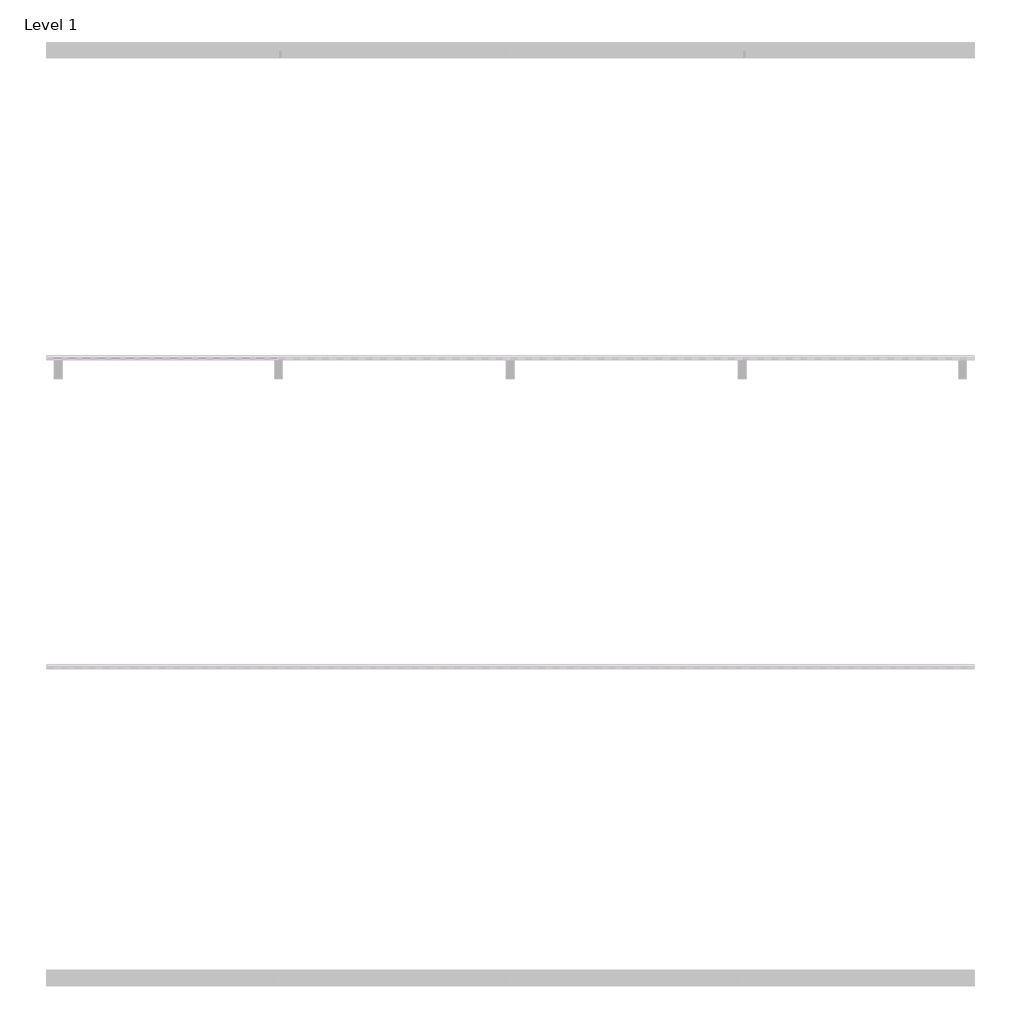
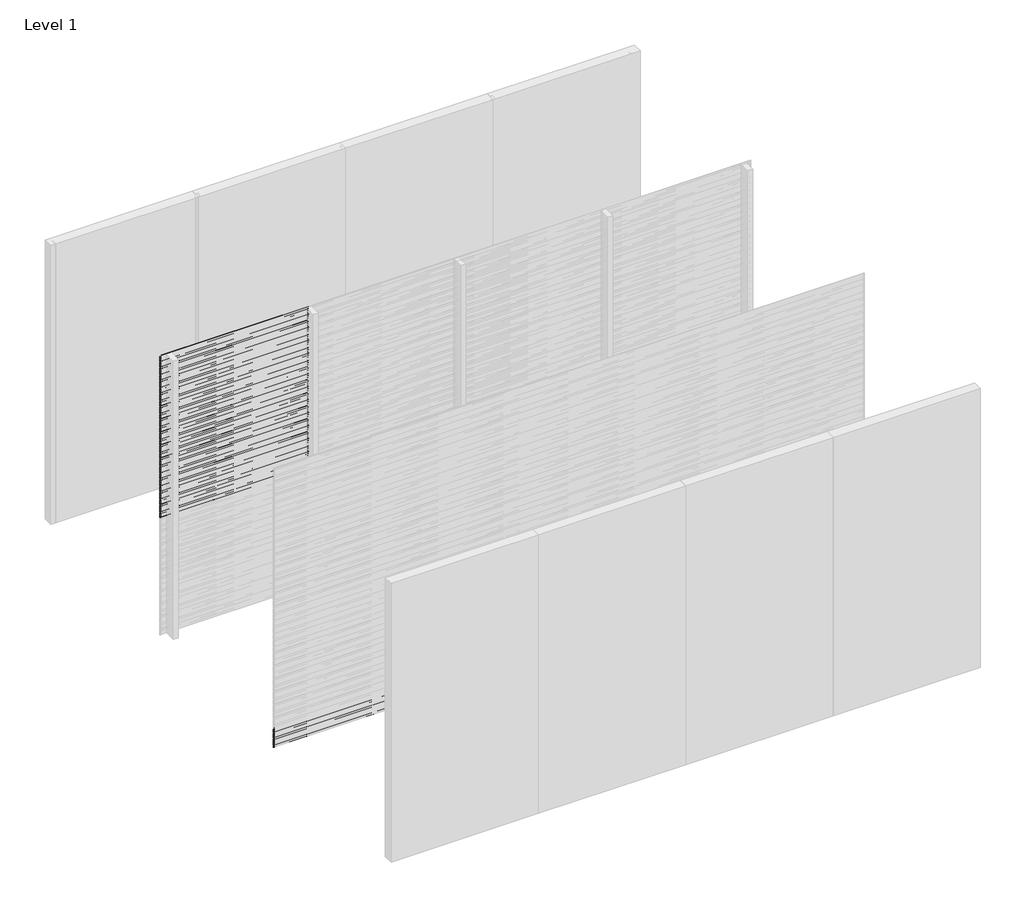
# One storey, part 3 of 31: 97 proxies.
"""IFC4 building model written with IfcOpenShell, lengths in millimetres."""

from ifc_helpers import new_model, si_unit, frame, origin, place, context, project, spatial, polyline, outline, extrude, element, save

model = new_model("IFC4")

# Units and contexts
model_context = context("Model", 3, world=origin())
ifc_project = project(units=[si_unit("LENGTHUNIT", "METRE", prefix="MILLI")], contexts=[model_context])

# Site, building, storey
site = spatial("IfcSite", under=ifc_project)
building = spatial("IfcBuilding", under=site)
storey = spatial("IfcBuildingStorey", under=building, Name="Level 1", Elevation=0.0)

# Proxies
placement = place(None, origin())
element("IfcBuildingElementProxy", 1, Name="Wall Sweeps", at=placement, inside=storey, context=model_context, shape_type="SweptSolid", body=[
    extrude(outline(polyline([(-17995.0, 3000.0), (-17995.0, 2988.942893), (-17976.0, 2973.0), (-17976.0, 2960.0), (-17997.0, 2977.6210923), (-17997.0, 3000.0), (-17995.0, 3000.0)])), frame((0.0, 0.0, 0.0), z_axis=(1.0, 0.0, 0.0), x_axis=(0.0, 1.0, 0.0)), (0.0, 0.0, 1.0), 1500.0000002),
])
element("IfcBuildingElementProxy", 2, Name="Wall Sweeps", at=placement, inside=storey, context=model_context, shape_type="SweptSolid", body=[
    extrude(outline(polyline([(-17995.0, 2980.0), (-17995.0, 2968.942893), (-17976.0, 2953.0), (-17976.0, 2940.0), (-17997.0, 2957.6210923), (-17997.0, 2980.0), (-17995.0, 2980.0)])), frame((0.0, 0.0, 0.0), z_axis=(1.0, 0.0, 0.0), x_axis=(0.0, 1.0, 0.0)), (0.0, 0.0, 1.0), 1500.0000002),
])
element("IfcBuildingElementProxy", 3, Name="Wall Sweeps", at=placement, inside=storey, context=model_context, shape_type="SweptSolid", body=[
    extrude(outline(polyline([(-17995.0, 2960.0), (-17995.0, 2948.942893), (-17976.0, 2933.0), (-17976.0, 2920.0), (-17997.0, 2937.6210923), (-17997.0, 2960.0), (-17995.0, 2960.0)])), frame((0.0, 0.0, 0.0), z_axis=(1.0, 0.0, 0.0), x_axis=(0.0, 1.0, 0.0)), (0.0, 0.0, 1.0), 1500.0000002),
])
element("IfcBuildingElementProxy", 4, Name="Wall Sweeps", at=placement, inside=storey, context=model_context, shape_type="SweptSolid", body=[
    extrude(outline(polyline([(-17995.0, 2940.0), (-17995.0, 2928.942893), (-17976.0, 2913.0), (-17976.0, 2900.0), (-17997.0, 2917.6210923), (-17997.0, 2940.0), (-17995.0, 2940.0)])), frame((0.0, 0.0, 0.0), z_axis=(1.0, 0.0, 0.0), x_axis=(0.0, 1.0, 0.0)), (0.0, 0.0, 1.0), 1500.0000002),
])
element("IfcBuildingElementProxy", 5, Name="Wall Sweeps", at=placement, inside=storey, context=model_context, shape_type="SweptSolid", body=[
    extrude(outline(polyline([(-17995.0, 2920.0), (-17995.0, 2908.942893), (-17976.0, 2893.0), (-17976.0, 2880.0), (-17997.0, 2897.6210923), (-17997.0, 2920.0), (-17995.0, 2920.0)])), frame((0.0, 0.0, 0.0), z_axis=(1.0, 0.0, 0.0), x_axis=(0.0, 1.0, 0.0)), (0.0, 0.0, 1.0), 1500.0000002),
])
element("IfcBuildingElementProxy", 6, Name="Wall Sweeps", at=placement, inside=storey, context=model_context, shape_type="SweptSolid", body=[
    extrude(outline(polyline([(-17995.0, 2900.0), (-17995.0, 2888.942893), (-17976.0, 2873.0), (-17976.0, 2860.0), (-17997.0, 2877.6210923), (-17997.0, 2900.0), (-17995.0, 2900.0)])), frame((0.0, 0.0, 0.0), z_axis=(1.0, 0.0, 0.0), x_axis=(0.0, 1.0, 0.0)), (0.0, 0.0, 1.0), 1500.0000002),
])
element("IfcBuildingElementProxy", 7, Name="Wall Sweeps", at=placement, inside=storey, context=model_context, shape_type="SweptSolid", body=[
    extrude(outline(polyline([(-17995.0, 2880.0), (-17995.0, 2868.942893), (-17976.0, 2853.0), (-17976.0, 2840.0), (-17997.0, 2857.6210923), (-17997.0, 2880.0), (-17995.0, 2880.0)])), frame((0.0, 0.0, 0.0), z_axis=(1.0, 0.0, 0.0), x_axis=(0.0, 1.0, 0.0)), (0.0, 0.0, 1.0), 1500.0000002),
])
element("IfcBuildingElementProxy", 8, Name="Wall Sweeps", at=placement, inside=storey, context=model_context, shape_type="SweptSolid", body=[
    extrude(outline(polyline([(-17995.0, 2860.0), (-17995.0, 2848.942893), (-17976.0, 2833.0), (-17976.0, 2820.0), (-17997.0, 2837.6210923), (-17997.0, 2860.0), (-17995.0, 2860.0)])), frame((0.0, 0.0, 0.0), z_axis=(1.0, 0.0, 0.0), x_axis=(0.0, 1.0, 0.0)), (0.0, 0.0, 1.0), 1500.0000002),
])
element("IfcBuildingElementProxy", 9, Name="Wall Sweeps", at=placement, inside=storey, context=model_context, shape_type="SweptSolid", body=[
    extrude(outline(polyline([(-17995.0, 2840.0), (-17995.0, 2828.942893), (-17976.0, 2813.0), (-17976.0, 2800.0), (-17997.0, 2817.6210923), (-17997.0, 2840.0), (-17995.0, 2840.0)])), frame((0.0, 0.0, 0.0), z_axis=(1.0, 0.0, 0.0), x_axis=(0.0, 1.0, 0.0)), (0.0, 0.0, 1.0), 1500.0000002),
])
element("IfcBuildingElementProxy", 10, Name="Wall Sweeps", at=placement, inside=storey, context=model_context, shape_type="SweptSolid", body=[
    extrude(outline(polyline([(-17995.0, 2820.0), (-17995.0, 2808.942893), (-17976.0, 2793.0), (-17976.0, 2780.0), (-17997.0, 2797.6210923), (-17997.0, 2820.0), (-17995.0, 2820.0)])), frame((0.0, 0.0, 0.0), z_axis=(1.0, 0.0, 0.0), x_axis=(0.0, 1.0, 0.0)), (0.0, 0.0, 1.0), 1500.0000002),
])
element("IfcBuildingElementProxy", 11, Name="Wall Sweeps", at=placement, inside=storey, context=model_context, shape_type="SweptSolid", body=[
    extrude(outline(polyline([(-17995.0, 2800.0), (-17995.0, 2788.942893), (-17976.0, 2773.0), (-17976.0, 2760.0), (-17997.0, 2777.6210923), (-17997.0, 2800.0), (-17995.0, 2800.0)])), frame((0.0, 0.0, 0.0), z_axis=(1.0, 0.0, 0.0), x_axis=(0.0, 1.0, 0.0)), (0.0, 0.0, 1.0), 1500.0000002),
])
element("IfcBuildingElementProxy", 12, Name="Wall Sweeps", at=placement, inside=storey, context=model_context, shape_type="SweptSolid", body=[
    extrude(outline(polyline([(-17995.0, 2780.0), (-17995.0, 2768.942893), (-17976.0, 2753.0), (-17976.0, 2740.0), (-17997.0, 2757.6210923), (-17997.0, 2780.0), (-17995.0, 2780.0)])), frame((0.0, 0.0, 0.0), z_axis=(1.0, 0.0, 0.0), x_axis=(0.0, 1.0, 0.0)), (0.0, 0.0, 1.0), 1500.0000002),
])
element("IfcBuildingElementProxy", 13, Name="Wall Sweeps", at=placement, inside=storey, context=model_context, shape_type="SweptSolid", body=[
    extrude(outline(polyline([(-17995.0, 2760.0), (-17995.0, 2748.942893), (-17976.0, 2733.0), (-17976.0, 2720.0), (-17997.0, 2737.6210923), (-17997.0, 2760.0), (-17995.0, 2760.0)])), frame((0.0, 0.0, 0.0), z_axis=(1.0, 0.0, 0.0), x_axis=(0.0, 1.0, 0.0)), (0.0, 0.0, 1.0), 1500.0000002),
])
element("IfcBuildingElementProxy", 14, Name="Wall Sweeps", at=placement, inside=storey, context=model_context, shape_type="SweptSolid", body=[
    extrude(outline(polyline([(-17995.0, 2740.0), (-17995.0, 2728.942893), (-17976.0, 2713.0), (-17976.0, 2700.0), (-17997.0, 2717.6210923), (-17997.0, 2740.0), (-17995.0, 2740.0)])), frame((0.0, 0.0, 0.0), z_axis=(1.0, 0.0, 0.0), x_axis=(0.0, 1.0, 0.0)), (0.0, 0.0, 1.0), 1500.0000002),
])
element("IfcBuildingElementProxy", 15, Name="Wall Sweeps", at=placement, inside=storey, context=model_context, shape_type="SweptSolid", body=[
    extrude(outline(polyline([(-17995.0, 2720.0), (-17995.0, 2708.942893), (-17976.0, 2693.0), (-17976.0, 2680.0), (-17997.0, 2697.6210923), (-17997.0, 2720.0), (-17995.0, 2720.0)])), frame((0.0, 0.0, 0.0), z_axis=(1.0, 0.0, 0.0), x_axis=(0.0, 1.0, 0.0)), (0.0, 0.0, 1.0), 1500.0000002),
])
element("IfcBuildingElementProxy", 16, Name="Wall Sweeps", at=placement, inside=storey, context=model_context, shape_type="SweptSolid", body=[
    extrude(outline(polyline([(-17995.0, 2700.0), (-17995.0, 2688.942893), (-17976.0, 2673.0), (-17976.0, 2660.0), (-17997.0, 2677.6210923), (-17997.0, 2700.0), (-17995.0, 2700.0)])), frame((0.0, 0.0, 0.0), z_axis=(1.0, 0.0, 0.0), x_axis=(0.0, 1.0, 0.0)), (0.0, 0.0, 1.0), 1500.0000002),
])
element("IfcBuildingElementProxy", 17, Name="Wall Sweeps", at=placement, inside=storey, context=model_context, shape_type="SweptSolid", body=[
    extrude(outline(polyline([(-17995.0, 2680.0), (-17995.0, 2668.942893), (-17976.0, 2653.0), (-17976.0, 2640.0), (-17997.0, 2657.6210923), (-17997.0, 2680.0), (-17995.0, 2680.0)])), frame((0.0, 0.0, 0.0), z_axis=(1.0, 0.0, 0.0), x_axis=(0.0, 1.0, 0.0)), (0.0, 0.0, 1.0), 1500.0000002),
])
element("IfcBuildingElementProxy", 18, Name="Wall Sweeps", at=placement, inside=storey, context=model_context, shape_type="SweptSolid", body=[
    extrude(outline(polyline([(-17995.0, 2660.0), (-17995.0, 2648.942893), (-17976.0, 2633.0), (-17976.0, 2620.0), (-17997.0, 2637.6210923), (-17997.0, 2660.0), (-17995.0, 2660.0)])), frame((0.0, 0.0, 0.0), z_axis=(1.0, 0.0, 0.0), x_axis=(0.0, 1.0, 0.0)), (0.0, 0.0, 1.0), 1500.0000002),
])
element("IfcBuildingElementProxy", 19, Name="Wall Sweeps", at=placement, inside=storey, context=model_context, shape_type="SweptSolid", body=[
    extrude(outline(polyline([(-17995.0, 2640.0), (-17995.0, 2628.942893), (-17976.0, 2613.0), (-17976.0, 2600.0), (-17997.0, 2617.6210923), (-17997.0, 2640.0), (-17995.0, 2640.0)])), frame((0.0, 0.0, 0.0), z_axis=(1.0, 0.0, 0.0), x_axis=(0.0, 1.0, 0.0)), (0.0, 0.0, 1.0), 1500.0000002),
])
element("IfcBuildingElementProxy", 20, Name="Wall Sweeps", at=placement, inside=storey, context=model_context, shape_type="SweptSolid", body=[
    extrude(outline(polyline([(-17995.0, 2620.0), (-17995.0, 2608.942893), (-17976.0, 2593.0), (-17976.0, 2580.0), (-17997.0, 2597.6210923), (-17997.0, 2620.0), (-17995.0, 2620.0)])), frame((0.0, 0.0, 0.0), z_axis=(1.0, 0.0, 0.0), x_axis=(0.0, 1.0, 0.0)), (0.0, 0.0, 1.0), 1500.0000002),
])
element("IfcBuildingElementProxy", 21, Name="Wall Sweeps", at=placement, inside=storey, context=model_context, shape_type="SweptSolid", body=[
    extrude(outline(polyline([(-17995.0, 2600.0), (-17995.0, 2588.942893), (-17976.0, 2573.0), (-17976.0, 2560.0), (-17997.0, 2577.6210923), (-17997.0, 2600.0), (-17995.0, 2600.0)])), frame((0.0, 0.0, 0.0), z_axis=(1.0, 0.0, 0.0), x_axis=(0.0, 1.0, 0.0)), (0.0, 0.0, 1.0), 1500.0000002),
])
element("IfcBuildingElementProxy", 22, Name="Wall Sweeps", at=placement, inside=storey, context=model_context, shape_type="SweptSolid", body=[
    extrude(outline(polyline([(-17995.0, 2580.0), (-17995.0, 2568.942893), (-17976.0, 2553.0), (-17976.0, 2540.0), (-17997.0, 2557.6210923), (-17997.0, 2580.0), (-17995.0, 2580.0)])), frame((0.0, 0.0, 0.0), z_axis=(1.0, 0.0, 0.0), x_axis=(0.0, 1.0, 0.0)), (0.0, 0.0, 1.0), 1500.0000002),
])
element("IfcBuildingElementProxy", 23, Name="Wall Sweeps", at=placement, inside=storey, context=model_context, shape_type="SweptSolid", body=[
    extrude(outline(polyline([(-17995.0, 2560.0), (-17995.0, 2548.942893), (-17976.0, 2533.0), (-17976.0, 2520.0), (-17997.0, 2537.6210923), (-17997.0, 2560.0), (-17995.0, 2560.0)])), frame((0.0, 0.0, 0.0), z_axis=(1.0, 0.0, 0.0), x_axis=(0.0, 1.0, 0.0)), (0.0, 0.0, 1.0), 1500.0000002),
])
element("IfcBuildingElementProxy", 24, Name="Wall Sweeps", at=placement, inside=storey, context=model_context, shape_type="SweptSolid", body=[
    extrude(outline(polyline([(-17995.0, 2540.0), (-17995.0, 2528.942893), (-17976.0, 2513.0), (-17976.0, 2500.0), (-17997.0, 2517.6210923), (-17997.0, 2540.0), (-17995.0, 2540.0)])), frame((0.0, 0.0, 0.0), z_axis=(1.0, 0.0, 0.0), x_axis=(0.0, 1.0, 0.0)), (0.0, 0.0, 1.0), 1500.0000002),
])
element("IfcBuildingElementProxy", 25, Name="Wall Sweeps", at=placement, inside=storey, context=model_context, shape_type="SweptSolid", body=[
    extrude(outline(polyline([(-17995.0, 2520.0), (-17995.0, 2508.942893), (-17976.0, 2493.0), (-17976.0, 2480.0), (-17997.0, 2497.6210923), (-17997.0, 2520.0), (-17995.0, 2520.0)])), frame((0.0, 0.0, 0.0), z_axis=(1.0, 0.0, 0.0), x_axis=(0.0, 1.0, 0.0)), (0.0, 0.0, 1.0), 1500.0000002),
])
element("IfcBuildingElementProxy", 26, Name="Wall Sweeps", at=placement, inside=storey, context=model_context, shape_type="SweptSolid", body=[
    extrude(outline(polyline([(-17995.0, 2500.0), (-17995.0, 2488.942893), (-17976.0, 2473.0), (-17976.0, 2460.0), (-17997.0, 2477.6210923), (-17997.0, 2500.0), (-17995.0, 2500.0)])), frame((0.0, 0.0, 0.0), z_axis=(1.0, 0.0, 0.0), x_axis=(0.0, 1.0, 0.0)), (0.0, 0.0, 1.0), 1500.0000002),
])
element("IfcBuildingElementProxy", 27, Name="Wall Sweeps", at=placement, inside=storey, context=model_context, shape_type="SweptSolid", body=[
    extrude(outline(polyline([(-17995.0, 2480.0), (-17995.0, 2468.942893), (-17976.0, 2453.0), (-17976.0, 2440.0), (-17997.0, 2457.6210923), (-17997.0, 2480.0), (-17995.0, 2480.0)])), frame((0.0, 0.0, 0.0), z_axis=(1.0, 0.0, 0.0), x_axis=(0.0, 1.0, 0.0)), (0.0, 0.0, 1.0), 1500.0000002),
])
element("IfcBuildingElementProxy", 28, Name="Wall Sweeps", at=placement, inside=storey, context=model_context, shape_type="SweptSolid", body=[
    extrude(outline(polyline([(-17995.0, 2460.0), (-17995.0, 2448.942893), (-17976.0, 2433.0), (-17976.0, 2420.0), (-17997.0, 2437.6210923), (-17997.0, 2460.0), (-17995.0, 2460.0)])), frame((0.0, 0.0, 0.0), z_axis=(1.0, 0.0, 0.0), x_axis=(0.0, 1.0, 0.0)), (0.0, 0.0, 1.0), 1500.0000002),
])
element("IfcBuildingElementProxy", 29, Name="Wall Sweeps", at=placement, inside=storey, context=model_context, shape_type="SweptSolid", body=[
    extrude(outline(polyline([(-17995.0, 2440.0), (-17995.0, 2428.942893), (-17976.0, 2413.0), (-17976.0, 2400.0), (-17997.0, 2417.6210923), (-17997.0, 2440.0), (-17995.0, 2440.0)])), frame((0.0, 0.0, 0.0), z_axis=(1.0, 0.0, 0.0), x_axis=(0.0, 1.0, 0.0)), (0.0, 0.0, 1.0), 1500.0000002),
])
element("IfcBuildingElementProxy", 30, Name="Wall Sweeps", at=placement, inside=storey, context=model_context, shape_type="SweptSolid", body=[
    extrude(outline(polyline([(-17995.0, 2420.0), (-17995.0, 2408.942893), (-17976.0, 2393.0), (-17976.0, 2380.0), (-17997.0, 2397.6210923), (-17997.0, 2420.0), (-17995.0, 2420.0)])), frame((0.0, 0.0, 0.0), z_axis=(1.0, 0.0, 0.0), x_axis=(0.0, 1.0, 0.0)), (0.0, 0.0, 1.0), 1500.0000002),
])
element("IfcBuildingElementProxy", 31, Name="Wall Sweeps", at=placement, inside=storey, context=model_context, shape_type="SweptSolid", body=[
    extrude(outline(polyline([(-17995.0, 2400.0), (-17995.0, 2388.942893), (-17976.0, 2373.0), (-17976.0, 2360.0), (-17997.0, 2377.6210923), (-17997.0, 2400.0), (-17995.0, 2400.0)])), frame((0.0, 0.0, 0.0), z_axis=(1.0, 0.0, 0.0), x_axis=(0.0, 1.0, 0.0)), (0.0, 0.0, 1.0), 1500.0000002),
])
element("IfcBuildingElementProxy", 32, Name="Wall Sweeps", at=placement, inside=storey, context=model_context, shape_type="SweptSolid", body=[
    extrude(outline(polyline([(-17995.0, 2380.0), (-17995.0, 2368.942893), (-17976.0, 2353.0), (-17976.0, 2340.0), (-17997.0, 2357.6210923), (-17997.0, 2380.0), (-17995.0, 2380.0)])), frame((0.0, 0.0, 0.0), z_axis=(1.0, 0.0, 0.0), x_axis=(0.0, 1.0, 0.0)), (0.0, 0.0, 1.0), 1500.0000002),
])
element("IfcBuildingElementProxy", 33, Name="Wall Sweeps", at=placement, inside=storey, context=model_context, shape_type="SweptSolid", body=[
    extrude(outline(polyline([(-17995.0, 2360.0), (-17995.0, 2348.942893), (-17976.0, 2333.0), (-17976.0, 2320.0), (-17997.0, 2337.6210923), (-17997.0, 2360.0), (-17995.0, 2360.0)])), frame((0.0, 0.0, 0.0), z_axis=(1.0, 0.0, 0.0), x_axis=(0.0, 1.0, 0.0)), (0.0, 0.0, 1.0), 1500.0000002),
])
element("IfcBuildingElementProxy", 34, Name="Wall Sweeps", at=placement, inside=storey, context=model_context, shape_type="SweptSolid", body=[
    extrude(outline(polyline([(-17995.0, 2340.0), (-17995.0, 2328.942893), (-17976.0, 2313.0), (-17976.0, 2300.0), (-17997.0, 2317.6210923), (-17997.0, 2340.0), (-17995.0, 2340.0)])), frame((0.0, 0.0, 0.0), z_axis=(1.0, 0.0, 0.0), x_axis=(0.0, 1.0, 0.0)), (0.0, 0.0, 1.0), 1500.0000002),
])
element("IfcBuildingElementProxy", 35, Name="Wall Sweeps", at=placement, inside=storey, context=model_context, shape_type="SweptSolid", body=[
    extrude(outline(polyline([(-17995.0, 2320.0), (-17995.0, 2308.942893), (-17976.0, 2293.0), (-17976.0, 2280.0), (-17997.0, 2297.6210923), (-17997.0, 2320.0), (-17995.0, 2320.0)])), frame((0.0, 0.0, 0.0), z_axis=(1.0, 0.0, 0.0), x_axis=(0.0, 1.0, 0.0)), (0.0, 0.0, 1.0), 1500.0000002),
])
element("IfcBuildingElementProxy", 36, Name="Wall Sweeps", at=placement, inside=storey, context=model_context, shape_type="SweptSolid", body=[
    extrude(outline(polyline([(-17995.0, 2300.0), (-17995.0, 2288.942893), (-17976.0, 2273.0), (-17976.0, 2260.0), (-17997.0, 2277.6210923), (-17997.0, 2300.0), (-17995.0, 2300.0)])), frame((0.0, 0.0, 0.0), z_axis=(1.0, 0.0, 0.0), x_axis=(0.0, 1.0, 0.0)), (0.0, 0.0, 1.0), 1500.0000002),
])
element("IfcBuildingElementProxy", 37, Name="Wall Sweeps", at=placement, inside=storey, context=model_context, shape_type="SweptSolid", body=[
    extrude(outline(polyline([(-17995.0, 2280.0), (-17995.0, 2268.942893), (-17976.0, 2253.0), (-17976.0, 2240.0), (-17997.0, 2257.6210923), (-17997.0, 2280.0), (-17995.0, 2280.0)])), frame((0.0, 0.0, 0.0), z_axis=(1.0, 0.0, 0.0), x_axis=(0.0, 1.0, 0.0)), (0.0, 0.0, 1.0), 1500.0000002),
])
element("IfcBuildingElementProxy", 38, Name="Wall Sweeps", at=placement, inside=storey, context=model_context, shape_type="SweptSolid", body=[
    extrude(outline(polyline([(-17995.0, 2260.0), (-17995.0, 2248.942893), (-17976.0, 2233.0), (-17976.0, 2220.0), (-17997.0, 2237.6210923), (-17997.0, 2260.0), (-17995.0, 2260.0)])), frame((0.0, 0.0, 0.0), z_axis=(1.0, 0.0, 0.0), x_axis=(0.0, 1.0, 0.0)), (0.0, 0.0, 1.0), 1500.0000002),
])
element("IfcBuildingElementProxy", 39, Name="Wall Sweeps", at=placement, inside=storey, context=model_context, shape_type="SweptSolid", body=[
    extrude(outline(polyline([(-17995.0, 2240.0), (-17995.0, 2228.942893), (-17976.0, 2213.0), (-17976.0, 2200.0), (-17997.0, 2217.6210923), (-17997.0, 2240.0), (-17995.0, 2240.0)])), frame((0.0, 0.0, 0.0), z_axis=(1.0, 0.0, 0.0), x_axis=(0.0, 1.0, 0.0)), (0.0, 0.0, 1.0), 1500.0000002),
])
element("IfcBuildingElementProxy", 40, Name="Wall Sweeps", at=placement, inside=storey, context=model_context, shape_type="SweptSolid", body=[
    extrude(outline(polyline([(-17995.0, 2220.0), (-17995.0, 2208.942893), (-17976.0, 2193.0), (-17976.0, 2180.0), (-17997.0, 2197.6210923), (-17997.0, 2220.0), (-17995.0, 2220.0)])), frame((0.0, 0.0, 0.0), z_axis=(1.0, 0.0, 0.0), x_axis=(0.0, 1.0, 0.0)), (0.0, 0.0, 1.0), 1500.0000002),
])
element("IfcBuildingElementProxy", 41, Name="Wall Sweeps", at=placement, inside=storey, context=model_context, shape_type="SweptSolid", body=[
    extrude(outline(polyline([(-17995.0, 2200.0), (-17995.0, 2188.942893), (-17976.0, 2173.0), (-17976.0, 2160.0), (-17997.0, 2177.6210923), (-17997.0, 2200.0), (-17995.0, 2200.0)])), frame((0.0, 0.0, 0.0), z_axis=(1.0, 0.0, 0.0), x_axis=(0.0, 1.0, 0.0)), (0.0, 0.0, 1.0), 1500.0000002),
])
element("IfcBuildingElementProxy", 42, Name="Wall Sweeps", at=placement, inside=storey, context=model_context, shape_type="SweptSolid", body=[
    extrude(outline(polyline([(-17995.0, 2180.0), (-17995.0, 2168.942893), (-17976.0, 2153.0), (-17976.0, 2140.0), (-17997.0, 2157.6210923), (-17997.0, 2180.0), (-17995.0, 2180.0)])), frame((0.0, 0.0, 0.0), z_axis=(1.0, 0.0, 0.0), x_axis=(0.0, 1.0, 0.0)), (0.0, 0.0, 1.0), 1500.0000002),
])
element("IfcBuildingElementProxy", 43, Name="Wall Sweeps", at=placement, inside=storey, context=model_context, shape_type="SweptSolid", body=[
    extrude(outline(polyline([(-17995.0, 2160.0), (-17995.0, 2148.942893), (-17976.0, 2133.0), (-17976.0, 2120.0), (-17997.0, 2137.6210923), (-17997.0, 2160.0), (-17995.0, 2160.0)])), frame((0.0, 0.0, 0.0), z_axis=(1.0, 0.0, 0.0), x_axis=(0.0, 1.0, 0.0)), (0.0, 0.0, 1.0), 1500.0000002),
])
element("IfcBuildingElementProxy", 44, Name="Wall Sweeps", at=placement, inside=storey, context=model_context, shape_type="SweptSolid", body=[
    extrude(outline(polyline([(-17995.0, 2140.0), (-17995.0, 2128.942893), (-17976.0, 2113.0), (-17976.0, 2100.0), (-17997.0, 2117.6210923), (-17997.0, 2140.0), (-17995.0, 2140.0)])), frame((0.0, 0.0, 0.0), z_axis=(1.0, 0.0, 0.0), x_axis=(0.0, 1.0, 0.0)), (0.0, 0.0, 1.0), 1500.0000002),
])
element("IfcBuildingElementProxy", 45, Name="Wall Sweeps", at=placement, inside=storey, context=model_context, shape_type="SweptSolid", body=[
    extrude(outline(polyline([(-17995.0, 2120.0), (-17995.0, 2108.942893), (-17976.0, 2093.0), (-17976.0, 2080.0), (-17997.0, 2097.6210923), (-17997.0, 2120.0), (-17995.0, 2120.0)])), frame((0.0, 0.0, 0.0), z_axis=(1.0, 0.0, 0.0), x_axis=(0.0, 1.0, 0.0)), (0.0, 0.0, 1.0), 1500.0000002),
])
element("IfcBuildingElementProxy", 46, Name="Wall Sweeps", at=placement, inside=storey, context=model_context, shape_type="SweptSolid", body=[
    extrude(outline(polyline([(-17995.0, 2100.0), (-17995.0, 2088.942893), (-17976.0, 2073.0), (-17976.0, 2060.0), (-17997.0, 2077.6210923), (-17997.0, 2100.0), (-17995.0, 2100.0)])), frame((0.0, 0.0, 0.0), z_axis=(1.0, 0.0, 0.0), x_axis=(0.0, 1.0, 0.0)), (0.0, 0.0, 1.0), 1500.0000002),
])
element("IfcBuildingElementProxy", 47, Name="Wall Sweeps", at=placement, inside=storey, context=model_context, shape_type="SweptSolid", body=[
    extrude(outline(polyline([(-17995.0, 2080.0), (-17995.0, 2068.942893), (-17976.0, 2053.0), (-17976.0, 2040.0), (-17997.0, 2057.6210923), (-17997.0, 2080.0), (-17995.0, 2080.0)])), frame((0.0, 0.0, 0.0), z_axis=(1.0, 0.0, 0.0), x_axis=(0.0, 1.0, 0.0)), (0.0, 0.0, 1.0), 1500.0000002),
])
element("IfcBuildingElementProxy", 48, Name="Wall Sweeps", at=placement, inside=storey, context=model_context, shape_type="SweptSolid", body=[
    extrude(outline(polyline([(-17995.0, 2060.0), (-17995.0, 2048.942893), (-17976.0, 2033.0), (-17976.0, 2020.0), (-17997.0, 2037.6210923), (-17997.0, 2060.0), (-17995.0, 2060.0)])), frame((0.0, 0.0, 0.0), z_axis=(1.0, 0.0, 0.0), x_axis=(0.0, 1.0, 0.0)), (0.0, 0.0, 1.0), 1500.0000002),
])
element("IfcBuildingElementProxy", 49, Name="Wall Sweeps", at=placement, inside=storey, context=model_context, shape_type="SweptSolid", body=[
    extrude(outline(polyline([(-17995.0, 2040.0), (-17995.0, 2028.942893), (-17976.0, 2013.0), (-17976.0, 2000.0), (-17997.0, 2017.6210923), (-17997.0, 2040.0), (-17995.0, 2040.0)])), frame((0.0, 0.0, 0.0), z_axis=(1.0, 0.0, 0.0), x_axis=(0.0, 1.0, 0.0)), (0.0, 0.0, 1.0), 1500.0000002),
])
element("IfcBuildingElementProxy", 50, Name="Wall Sweeps", at=placement, inside=storey, context=model_context, shape_type="SweptSolid", body=[
    extrude(outline(polyline([(-17995.0, 2020.0), (-17995.0, 2008.942893), (-17976.0, 1993.0), (-17976.0, 1980.0), (-17997.0, 1997.6210923), (-17997.0, 2020.0), (-17995.0, 2020.0)])), frame((0.0, 0.0, 0.0), z_axis=(1.0, 0.0, 0.0), x_axis=(0.0, 1.0, 0.0)), (0.0, 0.0, 1.0), 1500.0000002),
])
element("IfcBuildingElementProxy", 51, Name="Wall Sweeps", at=placement, inside=storey, context=model_context, shape_type="SweptSolid", body=[
    extrude(outline(polyline([(-17995.0, 2000.0), (-17995.0, 1988.942893), (-17976.0, 1973.0), (-17976.0, 1960.0), (-17997.0, 1977.6210923), (-17997.0, 2000.0), (-17995.0, 2000.0)])), frame((0.0, 0.0, 0.0), z_axis=(1.0, 0.0, 0.0), x_axis=(0.0, 1.0, 0.0)), (0.0, 0.0, 1.0), 1500.0000002),
])
element("IfcBuildingElementProxy", 52, Name="Wall Sweeps", at=placement, inside=storey, context=model_context, shape_type="SweptSolid", body=[
    extrude(outline(polyline([(-17995.0, 1980.0), (-17995.0, 1968.942893), (-17976.0, 1953.0), (-17976.0, 1940.0), (-17997.0, 1957.6210923), (-17997.0, 1980.0), (-17995.0, 1980.0)])), frame((0.0, 0.0, 0.0), z_axis=(1.0, 0.0, 0.0), x_axis=(0.0, 1.0, 0.0)), (0.0, 0.0, 1.0), 1500.0000002),
])
element("IfcBuildingElementProxy", 53, Name="Wall Sweeps", at=placement, inside=storey, context=model_context, shape_type="SweptSolid", body=[
    extrude(outline(polyline([(-17995.0, 1960.0), (-17995.0, 1948.942893), (-17976.0, 1933.0), (-17976.0, 1920.0), (-17997.0, 1937.6210923), (-17997.0, 1960.0), (-17995.0, 1960.0)])), frame((0.0, 0.0, 0.0), z_axis=(1.0, 0.0, 0.0), x_axis=(0.0, 1.0, 0.0)), (0.0, 0.0, 1.0), 1500.0000002),
])
element("IfcBuildingElementProxy", 54, Name="Wall Sweeps", at=placement, inside=storey, context=model_context, shape_type="SweptSolid", body=[
    extrude(outline(polyline([(-17995.0, 1940.0), (-17995.0, 1928.942893), (-17976.0, 1913.0), (-17976.0, 1900.0), (-17997.0, 1917.6210923), (-17997.0, 1940.0), (-17995.0, 1940.0)])), frame((0.0, 0.0, 0.0), z_axis=(1.0, 0.0, 0.0), x_axis=(0.0, 1.0, 0.0)), (0.0, 0.0, 1.0), 1500.0000002),
])
element("IfcBuildingElementProxy", 55, Name="Wall Sweeps", at=placement, inside=storey, context=model_context, shape_type="SweptSolid", body=[
    extrude(outline(polyline([(-17995.0, 1920.0), (-17995.0, 1908.942893), (-17976.0, 1893.0), (-17976.0, 1880.0), (-17997.0, 1897.6210923), (-17997.0, 1920.0), (-17995.0, 1920.0)])), frame((0.0, 0.0, 0.0), z_axis=(1.0, 0.0, 0.0), x_axis=(0.0, 1.0, 0.0)), (0.0, 0.0, 1.0), 1500.0000002),
])
element("IfcBuildingElementProxy", 56, Name="Wall Sweeps", at=placement, inside=storey, context=model_context, shape_type="SweptSolid", body=[
    extrude(outline(polyline([(-17995.0, 1900.0), (-17995.0, 1888.942893), (-17976.0, 1873.0), (-17976.0, 1860.0), (-17997.0, 1877.6210923), (-17997.0, 1900.0), (-17995.0, 1900.0)])), frame((0.0, 0.0, 0.0), z_axis=(1.0, 0.0, 0.0), x_axis=(0.0, 1.0, 0.0)), (0.0, 0.0, 1.0), 1500.0000002),
])
element("IfcBuildingElementProxy", 57, Name="Wall Sweeps", at=placement, inside=storey, context=model_context, shape_type="SweptSolid", body=[
    extrude(outline(polyline([(-17995.0, 1880.0), (-17995.0, 1868.942893), (-17976.0, 1853.0), (-17976.0, 1840.0), (-17997.0, 1857.6210923), (-17997.0, 1880.0), (-17995.0, 1880.0)])), frame((0.0, 0.0, 0.0), z_axis=(1.0, 0.0, 0.0), x_axis=(0.0, 1.0, 0.0)), (0.0, 0.0, 1.0), 1500.0000002),
])
element("IfcBuildingElementProxy", 58, Name="Wall Sweeps", at=placement, inside=storey, context=model_context, shape_type="SweptSolid", body=[
    extrude(outline(polyline([(-17995.0, 1860.0), (-17995.0, 1848.942893), (-17976.0, 1833.0), (-17976.0, 1820.0), (-17997.0, 1837.6210923), (-17997.0, 1860.0), (-17995.0, 1860.0)])), frame((0.0, 0.0, 0.0), z_axis=(1.0, 0.0, 0.0), x_axis=(0.0, 1.0, 0.0)), (0.0, 0.0, 1.0), 1500.0000002),
])
element("IfcBuildingElementProxy", 59, Name="Wall Sweeps", at=placement, inside=storey, context=model_context, shape_type="SweptSolid", body=[
    extrude(outline(polyline([(-17995.0, 1840.0), (-17995.0, 1828.942893), (-17976.0, 1813.0), (-17976.0, 1800.0), (-17997.0, 1817.6210923), (-17997.0, 1840.0), (-17995.0, 1840.0)])), frame((0.0, 0.0, 0.0), z_axis=(1.0, 0.0, 0.0), x_axis=(0.0, 1.0, 0.0)), (0.0, 0.0, 1.0), 1500.0000002),
])
element("IfcBuildingElementProxy", 60, Name="Wall Sweeps", at=placement, inside=storey, context=model_context, shape_type="SweptSolid", body=[
    extrude(outline(polyline([(-17995.0, 1820.0), (-17995.0, 1808.942893), (-17976.0, 1793.0), (-17976.0, 1780.0), (-17997.0, 1797.6210923), (-17997.0, 1820.0), (-17995.0, 1820.0)])), frame((0.0, 0.0, 0.0), z_axis=(1.0, 0.0, 0.0), x_axis=(0.0, 1.0, 0.0)), (0.0, 0.0, 1.0), 1500.0000002),
])
element("IfcBuildingElementProxy", 61, Name="Wall Sweeps", at=placement, inside=storey, context=model_context, shape_type="SweptSolid", body=[
    extrude(outline(polyline([(-17995.0, 1800.0), (-17995.0, 1788.942893), (-17976.0, 1773.0), (-17976.0, 1760.0), (-17997.0, 1777.6210923), (-17997.0, 1800.0), (-17995.0, 1800.0)])), frame((0.0, 0.0, 0.0), z_axis=(1.0, 0.0, 0.0), x_axis=(0.0, 1.0, 0.0)), (0.0, 0.0, 1.0), 1500.0000002),
])
element("IfcBuildingElementProxy", 62, Name="Wall Sweeps", at=placement, inside=storey, context=model_context, shape_type="SweptSolid", body=[
    extrude(outline(polyline([(-17995.0, 1780.0), (-17995.0, 1768.942893), (-17976.0, 1753.0), (-17976.0, 1740.0), (-17997.0, 1757.6210923), (-17997.0, 1780.0), (-17995.0, 1780.0)])), frame((0.0, 0.0, 0.0), z_axis=(1.0, 0.0, 0.0), x_axis=(0.0, 1.0, 0.0)), (0.0, 0.0, 1.0), 1500.0000002),
])
element("IfcBuildingElementProxy", 63, Name="Wall Sweeps", at=placement, inside=storey, context=model_context, shape_type="SweptSolid", body=[
    extrude(outline(polyline([(-17995.0, 1760.0), (-17995.0, 1748.942893), (-17976.0, 1733.0), (-17976.0, 1720.0), (-17997.0, 1737.6210923), (-17997.0, 1760.0), (-17995.0, 1760.0)])), frame((0.0, 0.0, 0.0), z_axis=(1.0, 0.0, 0.0), x_axis=(0.0, 1.0, 0.0)), (0.0, 0.0, 1.0), 1500.0000002),
])
element("IfcBuildingElementProxy", 64, Name="Wall Sweeps", at=placement, inside=storey, context=model_context, shape_type="SweptSolid", body=[
    extrude(outline(polyline([(-17995.0, 1740.0), (-17995.0, 1728.942893), (-17976.0, 1713.0), (-17976.0, 1700.0), (-17997.0, 1717.6210923), (-17997.0, 1740.0), (-17995.0, 1740.0)])), frame((0.0, 0.0, 0.0), z_axis=(1.0, 0.0, 0.0), x_axis=(0.0, 1.0, 0.0)), (0.0, 0.0, 1.0), 1500.0000002),
])
element("IfcBuildingElementProxy", 65, Name="Wall Sweeps", at=placement, inside=storey, context=model_context, shape_type="SweptSolid", body=[
    extrude(outline(polyline([(-17995.0, 1720.0), (-17995.0, 1708.942893), (-17976.0, 1693.0), (-17976.0, 1680.0), (-17997.0, 1697.6210923), (-17997.0, 1720.0), (-17995.0, 1720.0)])), frame((0.0, 0.0, 0.0), z_axis=(1.0, 0.0, 0.0), x_axis=(0.0, 1.0, 0.0)), (0.0, 0.0, 1.0), 1500.0000002),
])
element("IfcBuildingElementProxy", 66, Name="Wall Sweeps", at=placement, inside=storey, context=model_context, shape_type="SweptSolid", body=[
    extrude(outline(polyline([(-17995.0, 1700.0), (-17995.0, 1688.942893), (-17976.0, 1673.0), (-17976.0, 1660.0), (-17997.0, 1677.6210923), (-17997.0, 1700.0), (-17995.0, 1700.0)])), frame((0.0, 0.0, 0.0), z_axis=(1.0, 0.0, 0.0), x_axis=(0.0, 1.0, 0.0)), (0.0, 0.0, 1.0), 1500.0000002),
])
element("IfcBuildingElementProxy", 67, Name="Wall Sweeps", at=placement, inside=storey, context=model_context, shape_type="SweptSolid", body=[
    extrude(outline(polyline([(-17995.0, 1680.0), (-17995.0, 1668.942893), (-17976.0, 1653.0), (-17976.0, 1640.0), (-17997.0, 1657.6210923), (-17997.0, 1680.0), (-17995.0, 1680.0)])), frame((0.0, 0.0, 0.0), z_axis=(1.0, 0.0, 0.0), x_axis=(0.0, 1.0, 0.0)), (0.0, 0.0, 1.0), 1500.0000002),
])
element("IfcBuildingElementProxy", 68, Name="Wall Sweeps", at=placement, inside=storey, context=model_context, shape_type="SweptSolid", body=[
    extrude(outline(polyline([(-17995.0, 1660.0), (-17995.0, 1648.942893), (-17976.0, 1633.0), (-17976.0, 1620.0), (-17997.0, 1637.6210923), (-17997.0, 1660.0), (-17995.0, 1660.0)])), frame((0.0, 0.0, 0.0), z_axis=(1.0, 0.0, 0.0), x_axis=(0.0, 1.0, 0.0)), (0.0, 0.0, 1.0), 1500.0000002),
])
element("IfcBuildingElementProxy", 69, Name="Wall Sweeps", at=placement, inside=storey, context=model_context, shape_type="SweptSolid", body=[
    extrude(outline(polyline([(-17995.0, 1640.0), (-17995.0, 1628.942893), (-17976.0, 1613.0), (-17976.0, 1600.0), (-17997.0, 1617.6210923), (-17997.0, 1640.0), (-17995.0, 1640.0)])), frame((0.0, 0.0, 0.0), z_axis=(1.0, 0.0, 0.0), x_axis=(0.0, 1.0, 0.0)), (0.0, 0.0, 1.0), 1500.0000002),
])
element("IfcBuildingElementProxy", 70, Name="Wall Sweeps", at=placement, inside=storey, context=model_context, shape_type="SweptSolid", body=[
    extrude(outline(polyline([(-17995.0, 1620.0), (-17995.0, 1608.942893), (-17976.0, 1593.0), (-17976.0, 1580.0), (-17997.0, 1597.6210923), (-17997.0, 1620.0), (-17995.0, 1620.0)])), frame((0.0, 0.0, 0.0), z_axis=(1.0, 0.0, 0.0), x_axis=(0.0, 1.0, 0.0)), (0.0, 0.0, 1.0), 1500.0000002),
])
element("IfcBuildingElementProxy", 71, Name="Wall Sweeps", at=placement, inside=storey, context=model_context, shape_type="SweptSolid", body=[
    extrude(outline(polyline([(-17995.0, 1600.0), (-17995.0, 1588.942893), (-17976.0, 1573.0), (-17976.0, 1560.0), (-17997.0, 1577.6210923), (-17997.0, 1600.0), (-17995.0, 1600.0)])), frame((0.0, 0.0, 0.0), z_axis=(1.0, 0.0, 0.0), x_axis=(0.0, 1.0, 0.0)), (0.0, 0.0, 1.0), 1500.0000002),
])
element("IfcBuildingElementProxy", 72, Name="Wall Sweeps", at=placement, inside=storey, context=model_context, shape_type="SweptSolid", body=[
    extrude(outline(polyline([(-17995.0, 1580.0), (-17995.0, 1568.942893), (-17976.0, 1553.0), (-17976.0, 1540.0), (-17997.0, 1557.6210923), (-17997.0, 1580.0), (-17995.0, 1580.0)])), frame((0.0, 0.0, 0.0), z_axis=(1.0, 0.0, 0.0), x_axis=(0.0, 1.0, 0.0)), (0.0, 0.0, 1.0), 1500.0000002),
])
element("IfcBuildingElementProxy", 73, Name="Wall Sweeps", at=placement, inside=storey, context=model_context, shape_type="SweptSolid", body=[
    extrude(outline(polyline([(-17995.0, 1560.0), (-17995.0, 1548.942893), (-17976.0, 1533.0), (-17976.0, 1520.0), (-17997.0, 1537.6210923), (-17997.0, 1560.0), (-17995.0, 1560.0)])), frame((0.0, 0.0, 0.0), z_axis=(1.0, 0.0, 0.0), x_axis=(0.0, 1.0, 0.0)), (0.0, 0.0, 1.0), 1500.0000002),
])
element("IfcBuildingElementProxy", 74, Name="Wall Sweeps", at=placement, inside=storey, context=model_context, shape_type="SweptSolid", body=[
    extrude(outline(polyline([(-17995.0, 1540.0), (-17995.0, 1528.942893), (-17976.0, 1513.0), (-17976.0, 1500.0), (-17997.0, 1517.6210923), (-17997.0, 1540.0), (-17995.0, 1540.0)])), frame((0.0, 0.0, 0.0), z_axis=(1.0, 0.0, 0.0), x_axis=(0.0, 1.0, 0.0)), (0.0, 0.0, 1.0), 1500.0000002),
])
element("IfcBuildingElementProxy", 75, Name="Wall Sweeps", at=placement, inside=storey, context=model_context, shape_type="SweptSolid", body=[
    extrude(outline(polyline([(-17995.0, 1520.0), (-17995.0, 1508.942893), (-17976.0, 1493.0), (-17976.0, 1480.0), (-17997.0, 1497.6210923), (-17997.0, 1520.0), (-17995.0, 1520.0)])), frame((0.0, 0.0, 0.0), z_axis=(1.0, 0.0, 0.0), x_axis=(0.0, 1.0, 0.0)), (0.0, 0.0, 1.0), 1500.0000002),
])
element("IfcBuildingElementProxy", 76, Name="Wall Sweeps", at=placement, inside=storey, context=model_context, shape_type="SweptSolid", body=[
    extrude(outline(polyline([(-17995.0, 1500.0), (-17995.0, 1488.942893), (-17976.0, 1473.0), (-17976.0, 1460.0), (-17997.0, 1477.6210923), (-17997.0, 1500.0), (-17995.0, 1500.0)])), frame((0.0, 0.0, 0.0), z_axis=(1.0, 0.0, 0.0), x_axis=(0.0, 1.0, 0.0)), (0.0, 0.0, 1.0), 1500.0000002),
])
element("IfcBuildingElementProxy", 77, Name="Wall Sweeps", at=placement, inside=storey, context=model_context, shape_type="SweptSolid", body=[
    extrude(outline(polyline([(-17995.0, 1480.0), (-17995.0, 1468.942893), (-17976.0, 1453.0), (-17976.0, 1440.0), (-17997.0, 1457.6210923), (-17997.0, 1480.0), (-17995.0, 1480.0)])), frame((0.0, 0.0, 0.0), z_axis=(1.0, 0.0, 0.0), x_axis=(0.0, 1.0, 0.0)), (0.0, 0.0, 1.0), 1500.0000002),
])
element("IfcBuildingElementProxy", 78, Name="Wall Sweeps", at=placement, inside=storey, context=model_context, shape_type="SweptSolid", body=[
    extrude(outline(polyline([(-17995.0, 1460.0), (-17995.0, 1448.942893), (-17976.0, 1433.0), (-17976.0, 1420.0), (-17997.0, 1437.6210923), (-17997.0, 1460.0), (-17995.0, 1460.0)])), frame((0.0, 0.0, 0.0), z_axis=(1.0, 0.0, 0.0), x_axis=(0.0, 1.0, 0.0)), (0.0, 0.0, 1.0), 1500.0000002),
])
element("IfcBuildingElementProxy", 79, Name="Wall Sweeps", at=placement, inside=storey, context=model_context, shape_type="SweptSolid", body=[
    extrude(outline(polyline([(-17995.0, 1440.0), (-17995.0, 1428.942893), (-17976.0, 1413.0), (-17976.0, 1400.0), (-17997.0, 1417.6210923), (-17997.0, 1440.0), (-17995.0, 1440.0)])), frame((0.0, 0.0, 0.0), z_axis=(1.0, 0.0, 0.0), x_axis=(0.0, 1.0, 0.0)), (0.0, 0.0, 1.0), 1500.0000002),
])
element("IfcBuildingElementProxy", 80, Name="Wall Sweeps", at=placement, inside=storey, context=model_context, shape_type="SweptSolid", body=[
    extrude(outline(polyline([(-17995.0, 1420.0), (-17995.0, 1408.942893), (-17976.0, 1393.0), (-17976.0, 1380.0), (-17997.0, 1397.6210923), (-17997.0, 1420.0), (-17995.0, 1420.0)])), frame((0.0, 0.0, 0.0), z_axis=(1.0, 0.0, 0.0), x_axis=(0.0, 1.0, 0.0)), (0.0, 0.0, 1.0), 1500.0000002),
])
element("IfcBuildingElementProxy", 81, Name="Wall Sweeps", at=placement, inside=storey, context=model_context, shape_type="SweptSolid", body=[
    extrude(outline(polyline([(-17995.0, 1400.0), (-17995.0, 1388.942893), (-17976.0, 1373.0), (-17976.0, 1360.0), (-17997.0, 1377.6210923), (-17997.0, 1400.0), (-17995.0, 1400.0)])), frame((0.0, 0.0, 0.0), z_axis=(1.0, 0.0, 0.0), x_axis=(0.0, 1.0, 0.0)), (0.0, 0.0, 1.0), 1500.0000002),
])
element("IfcBuildingElementProxy", 82, Name="Wall Sweeps", at=placement, inside=storey, context=model_context, shape_type="SweptSolid", body=[
    extrude(outline(polyline([(-17995.0, 1380.0), (-17995.0, 1368.942893), (-17976.0, 1353.0), (-17976.0, 1340.0), (-17997.0, 1357.6210923), (-17997.0, 1380.0), (-17995.0, 1380.0)])), frame((0.0, 0.0, 0.0), z_axis=(1.0, 0.0, 0.0), x_axis=(0.0, 1.0, 0.0)), (0.0, 0.0, 1.0), 1500.0000002),
])
element("IfcBuildingElementProxy", 83, Name="Wall Sweeps", at=placement, inside=storey, context=model_context, shape_type="SweptSolid", body=[
    extrude(outline(polyline([(-17995.0, 1360.0), (-17995.0, 1348.942893), (-17976.0, 1333.0), (-17976.0, 1320.0), (-17997.0, 1337.6210923), (-17997.0, 1360.0), (-17995.0, 1360.0)])), frame((0.0, 0.0, 0.0), z_axis=(1.0, 0.0, 0.0), x_axis=(0.0, 1.0, 0.0)), (0.0, 0.0, 1.0), 1500.0000002),
])
element("IfcBuildingElementProxy", 84, Name="Wall Sweeps", at=placement, inside=storey, context=model_context, shape_type="SweptSolid", body=[
    extrude(outline(polyline([(-17995.0, 1340.0), (-17995.0, 1328.942893), (-17976.0, 1313.0), (-17976.0, 1300.0), (-17997.0, 1317.6210923), (-17997.0, 1340.0), (-17995.0, 1340.0)])), frame((0.0, 0.0, 0.0), z_axis=(1.0, 0.0, 0.0), x_axis=(0.0, 1.0, 0.0)), (0.0, 0.0, 1.0), 1500.0000002),
])
element("IfcBuildingElementProxy", 85, Name="Wall Sweeps", at=placement, inside=storey, context=model_context, shape_type="SweptSolid", body=[
    extrude(outline(polyline([(-17995.0, 1320.0), (-17995.0, 1308.942893), (-17976.0, 1293.0), (-17976.0, 1280.0), (-17997.0, 1297.6210923), (-17997.0, 1320.0), (-17995.0, 1320.0)])), frame((0.0, 0.0, 0.0), z_axis=(1.0, 0.0, 0.0), x_axis=(0.0, 1.0, 0.0)), (0.0, 0.0, 1.0), 1500.0000002),
])
element("IfcBuildingElementProxy", 86, Name="Wall Sweeps", at=placement, inside=storey, context=model_context, shape_type="SweptSolid", body=[
    extrude(outline(polyline([(-17995.0, 1300.0), (-17995.0, 1288.942893), (-17976.0, 1273.0), (-17976.0, 1260.0), (-17997.0, 1277.6210923), (-17997.0, 1300.0), (-17995.0, 1300.0)])), frame((0.0, 0.0, 0.0), z_axis=(1.0, 0.0, 0.0), x_axis=(0.0, 1.0, 0.0)), (0.0, 0.0, 1.0), 1500.0000002),
])
element("IfcBuildingElementProxy", 87, Name="Wall Sweeps", at=placement, inside=storey, context=model_context, shape_type="SweptSolid", body=[
    extrude(outline(polyline([(-17995.0, 1280.0), (-17995.0, 1268.942893), (-17976.0, 1253.0), (-17976.0, 1240.0), (-17997.0, 1257.6210923), (-17997.0, 1280.0), (-17995.0, 1280.0)])), frame((0.0, 0.0, 0.0), z_axis=(1.0, 0.0, 0.0), x_axis=(0.0, 1.0, 0.0)), (0.0, 0.0, 1.0), 1500.0000002),
])
element("IfcBuildingElementProxy", 88, Name="Wall Sweeps", at=placement, inside=storey, context=model_context, shape_type="SweptSolid", body=[
    extrude(outline(polyline([(-19995.0, 200.0), (-19995.0, 188.942893), (-19976.0, 173.0), (-19976.0, 160.0), (-19997.0, 177.6210923), (-19997.0, 200.0), (-19995.0, 200.0)])), frame((0.0, 0.0, 0.0), z_axis=(1.0, 0.0, 0.0), x_axis=(0.0, 1.0, 0.0)), (0.0, 0.0, 1.0), 6000.0),
])
element("IfcBuildingElementProxy", 89, Name="Wall Sweeps", at=placement, inside=storey, context=model_context, shape_type="SweptSolid", body=[
    extrude(outline(polyline([(-19995.0, 180.0), (-19995.0, 168.942893), (-19976.0, 153.0), (-19976.0, 140.0), (-19997.0, 157.6210923), (-19997.0, 180.0), (-19995.0, 180.0)])), frame((0.0, 0.0, 0.0), z_axis=(1.0, 0.0, 0.0), x_axis=(0.0, 1.0, 0.0)), (0.0, 0.0, 1.0), 6000.0),
])
element("IfcBuildingElementProxy", 90, Name="Wall Sweeps", at=placement, inside=storey, context=model_context, shape_type="SweptSolid", body=[
    extrude(outline(polyline([(-19995.0, 160.0), (-19995.0, 148.942893), (-19976.0, 133.0), (-19976.0, 120.0), (-19997.0, 137.6210923), (-19997.0, 160.0), (-19995.0, 160.0)])), frame((0.0, 0.0, 0.0), z_axis=(1.0, 0.0, 0.0), x_axis=(0.0, 1.0, 0.0)), (0.0, 0.0, 1.0), 6000.0),
])
element("IfcBuildingElementProxy", 91, Name="Wall Sweeps", at=placement, inside=storey, context=model_context, shape_type="SweptSolid", body=[
    extrude(outline(polyline([(-19995.0, 140.0), (-19995.0, 128.942893), (-19976.0, 113.0), (-19976.0, 100.0), (-19997.0, 117.6210923), (-19997.0, 140.0), (-19995.0, 140.0)])), frame((0.0, 0.0, 0.0), z_axis=(1.0, 0.0, 0.0), x_axis=(0.0, 1.0, 0.0)), (0.0, 0.0, 1.0), 6000.0),
])
element("IfcBuildingElementProxy", 92, Name="Wall Sweeps", at=placement, inside=storey, context=model_context, shape_type="SweptSolid", body=[
    extrude(outline(polyline([(-19995.0, 120.0), (-19995.0, 108.942893), (-19976.0, 93.0), (-19976.0, 80.0), (-19997.0, 97.6210923), (-19997.0, 120.0), (-19995.0, 120.0)])), frame((0.0, 0.0, 0.0), z_axis=(1.0, 0.0, 0.0), x_axis=(0.0, 1.0, 0.0)), (0.0, 0.0, 1.0), 6000.0),
])
element("IfcBuildingElementProxy", 93, Name="Wall Sweeps", at=placement, inside=storey, context=model_context, shape_type="SweptSolid", body=[
    extrude(outline(polyline([(-19995.0, 100.0), (-19995.0, 88.942893), (-19976.0, 73.0), (-19976.0, 60.0), (-19997.0, 77.6210923), (-19997.0, 100.0), (-19995.0, 100.0)])), frame((0.0, 0.0, 0.0), z_axis=(1.0, 0.0, 0.0), x_axis=(0.0, 1.0, 0.0)), (0.0, 0.0, 1.0), 6000.0),
])
element("IfcBuildingElementProxy", 94, Name="Wall Sweeps", at=placement, inside=storey, context=model_context, shape_type="SweptSolid", body=[
    extrude(outline(polyline([(-19995.0, 80.0), (-19995.0, 68.942893), (-19976.0, 53.0), (-19976.0, 40.0), (-19997.0, 57.6210923), (-19997.0, 80.0), (-19995.0, 80.0)])), frame((0.0, 0.0, 0.0), z_axis=(1.0, 0.0, 0.0), x_axis=(0.0, 1.0, 0.0)), (0.0, 0.0, 1.0), 6000.0),
])
element("IfcBuildingElementProxy", 95, Name="Wall Sweeps", at=placement, inside=storey, context=model_context, shape_type="SweptSolid", body=[
    extrude(outline(polyline([(-19995.0, 60.0), (-19995.0, 48.942893), (-19976.0, 33.0), (-19976.0, 20.0), (-19997.0, 37.6210923), (-19997.0, 60.0), (-19995.0, 60.0)])), frame((0.0, 0.0, 0.0), z_axis=(1.0, 0.0, 0.0), x_axis=(0.0, 1.0, 0.0)), (0.0, 0.0, 1.0), 6000.0),
])
element("IfcBuildingElementProxy", 96, Name="Wall Sweeps", at=placement, inside=storey, context=model_context, shape_type="SweptSolid", body=[
    extrude(outline(polyline([(-19995.0, 40.0), (-19995.0, 28.942893), (-19976.0, 13.0), (-19976.0, 0.0), (-19997.0, 17.6210923), (-19997.0, 40.0), (-19995.0, 40.0)])), frame((0.0, 0.0, 0.0), z_axis=(1.0, 0.0, 0.0), x_axis=(0.0, 1.0, 0.0)), (0.0, 0.0, 1.0), 6000.0),
])
element("IfcBuildingElementProxy", 97, Name="Wall Sweeps", at=placement, inside=storey, context=model_context, shape_type="SweptSolid", body=[
    extrude(outline(polyline([(-19995.0, 20.0), (-19995.0, 8.942893), (-19976.0, -7.0), (-19976.0, -20.0), (-19997.0, -2.3789077), (-19997.0, 20.0), (-19995.0, 20.0)])), frame((0.0, 0.0, 0.0), z_axis=(1.0, 0.0, 0.0), x_axis=(0.0, 1.0, 0.0)), (0.0, 0.0, 1.0), 6000.0),
])

save(model, "model.ifc")
